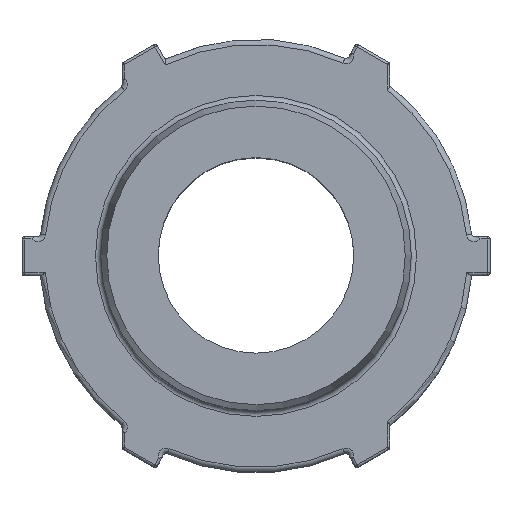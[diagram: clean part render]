
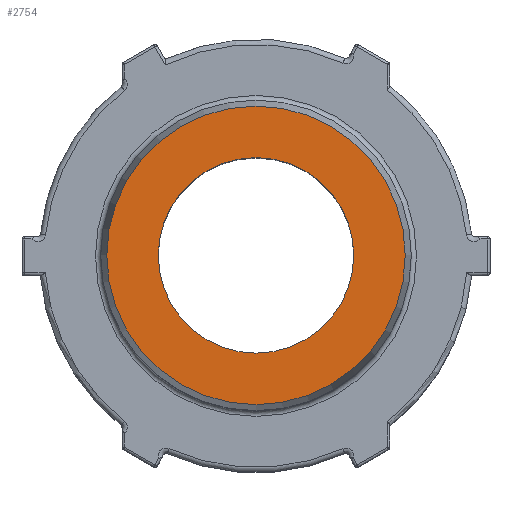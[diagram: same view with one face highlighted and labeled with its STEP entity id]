
A CAD part, top view. The second image highlights one B-rep face of the part: STEP entity #2754.
In plain terms, the highlighted planar face has unit normal (0, 0, 1).
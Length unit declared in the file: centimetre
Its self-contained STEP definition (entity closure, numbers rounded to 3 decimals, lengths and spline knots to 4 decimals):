
#465=PLANE('',#3076);
#838=VERTEX_POINT('',#34153);
#845=VERTEX_POINT('',#34174);
#994=CIRCLE('',#3061,1.4326);
#1001=CIRCLE('',#3075,2.1874);
#1397=EDGE_CURVE('',#838,#838,#994,.T.);
#1404=EDGE_CURVE('',#845,#845,#1001,.T.);
#2209=ORIENTED_EDGE('',*,*,#1397,.F.);
#2210=ORIENTED_EDGE('',*,*,#1404,.T.);
#2395=EDGE_LOOP('',(#2209));
#2396=EDGE_LOOP('',(#2210));
#2581=FACE_BOUND('',#2395,.T.);
#2582=FACE_BOUND('',#2396,.T.);
#2754=ADVANCED_FACE('',(#2581,#2582),#465,.T.);
#3061=AXIS2_PLACEMENT_3D('',#34152,#3780,#3781);
#3075=AXIS2_PLACEMENT_3D('',#34173,#3805,#3806);
#3076=AXIS2_PLACEMENT_3D('',#34175,#3807,$);
#3780=DIRECTION('',(0.,0.,1.));
#3781=DIRECTION('',(0.,1.433,0.));
#3805=DIRECTION('',(0.,0.,1.));
#3806=DIRECTION('',(0.,2.187,0.));
#3807=DIRECTION('',(0.,0.,1.));
#34152=CARTESIAN_POINT('',(0.,0.,0.));
#34153=CARTESIAN_POINT('',(0.,1.4326,0.));
#34173=CARTESIAN_POINT('',(0.,0.,0.));
#34174=CARTESIAN_POINT('',(0.,2.1874,0.));
#34175=CARTESIAN_POINT('',(0.,1.81,0.));
